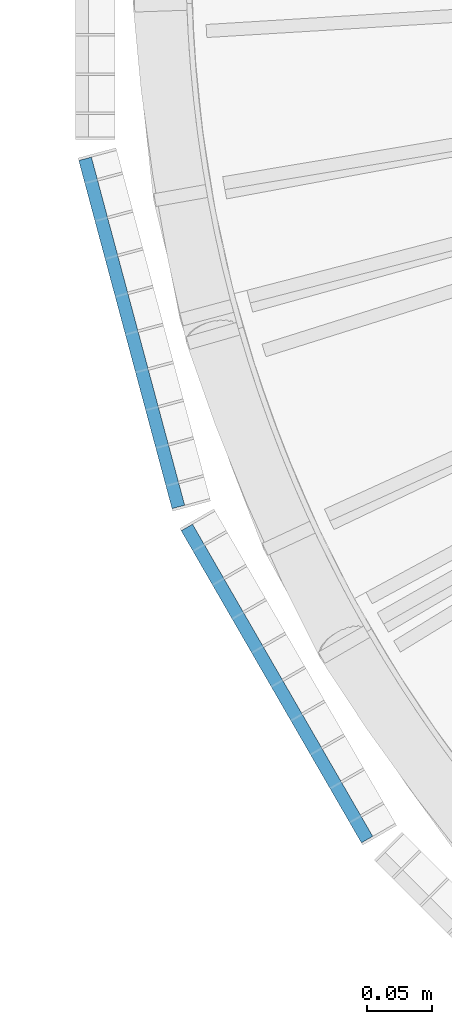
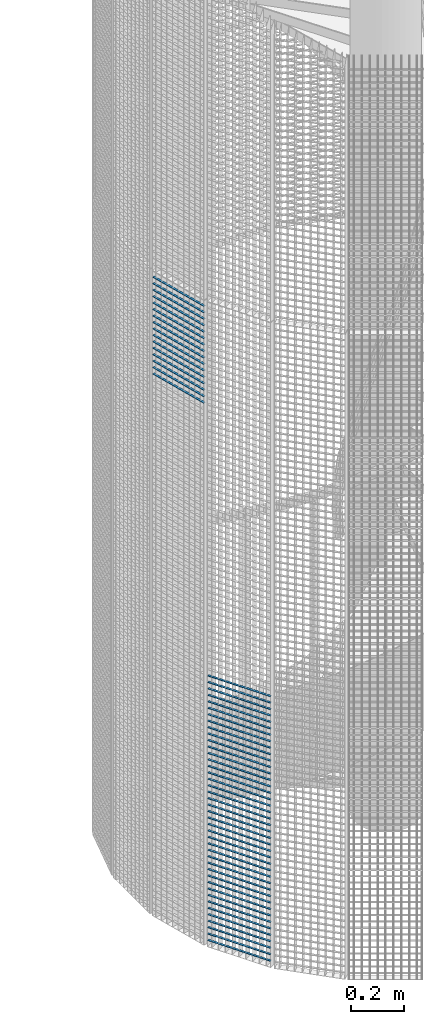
# One storey, part 132 of 1183: 58 beams, 2 elements without a shape of their own.
"""IFC2X3 building model written with IfcOpenShell, lengths in millimetres."""

from ifc_helpers import new_model, si_unit, frame, origin_with_axes, origin_2d_with_axis, place, context, subcontext, project, spatial, rectangle, extrude, material, type_object, element, aggregate, save


model = new_model("IFC2X3")

# Units and contexts
model_context = context("Model", 3, precision=1e-05, world=origin_with_axes())
body_context = subcontext(model_context, "Body", "Model", "MODEL_VIEW")
ifc_project = project(units=[si_unit("LENGTHUNIT", "METRE", prefix="MILLI"), si_unit("AREAUNIT", "SQUARE_METRE"), si_unit("VOLUMEUNIT", "CUBIC_METRE"), si_unit("MASSUNIT", "GRAM", prefix="KILO"), si_unit("TIMEUNIT", "SECOND"), si_unit("PLANEANGLEUNIT", "RADIAN"), si_unit("SOLIDANGLEUNIT", "STERADIAN"), si_unit("THERMODYNAMICTEMPERATUREUNIT", "DEGREE_CELSIUS"), si_unit("LUMINOUSINTENSITYUNIT", "LUMEN")], contexts=[model_context])

# Site, building, storey
site_placement = place(None, origin_with_axes())
site = spatial("IfcSite", under=ifc_project, at=site_placement, Name="Undefined", CompositionType="ELEMENT")
building_placement = place(site_placement, origin_with_axes())
building = spatial("IfcBuilding", under=site, at=building_placement, Name="Undefined", CompositionType="ELEMENT")
storey_placement = place(building_placement, origin_with_axes())
storey = spatial("IfcBuildingStorey", under=building, at=storey_placement, Name="Undefined", CompositionType="ELEMENT", Elevation=0.0)

# Assembly, beams
assembly_1_placement = place(storey_placement, origin_with_axes())
assembly_1 = element("IfcElementAssembly", 1, at=assembly_1_placement, inside=storey, Name="BORDURE", AssemblyPlace="NOTDEFINED", PredefinedType="NOTDEFINED")
ifc_material = material(Name="STEEL/S235JR")
beam_type = type_object("IfcBeamType", Name="PL2*10", PredefinedType="NOTDEFINED")
beam_1_placement = place(assembly_1_placement, frame((-1033.29996828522, -437.231955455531, 1260.0), z_axis=(-0.866025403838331, -0.499999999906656, 0.0), x_axis=(0.499999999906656, -0.866025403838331, 0.0)))
beam_1 = element("IfcBeam", 2, at=beam_1_placement, type_object=beam_type, material=ifc_material, Name="ENTRETOISE", context=body_context, shape_type="SweptSolid", body=[
    extrude(rectangle(XDim=2.0, YDim=10.0, at=origin_2d_with_axis()), frame((275.999999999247, 9.09494701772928e-13, 1.53210777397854e-14), z_axis=(-1.0, 0.0, 0.0), x_axis=(0.0, -1.0, 0.0)), (0.0, 0.0, 1.0), 276.0),
])
beam_2_placement = place(assembly_1_placement, frame((-1033.29996828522, -437.231955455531, 1230.0), z_axis=(-0.866025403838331, -0.499999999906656, 0.0), x_axis=(0.499999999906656, -0.866025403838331, 0.0)))
beam_2 = element("IfcBeam", 3, at=beam_2_placement, type_object=beam_type, material=ifc_material, Name="ENTRETOISE", context=body_context, shape_type="SweptSolid", body=[
    extrude(rectangle(XDim=2.0, YDim=10.0, at=origin_2d_with_axis()), frame((275.999999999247, 9.09494701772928e-13, 1.53210777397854e-14), z_axis=(-1.0, 0.0, 0.0), x_axis=(0.0, -1.0, 0.0)), (0.0, 0.0, 1.0), 276.0),
])
beam_3_placement = place(assembly_1_placement, frame((-1033.29996828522, -437.231955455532, 1200.0), z_axis=(-0.866025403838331, -0.499999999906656, 0.0), x_axis=(0.499999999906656, -0.866025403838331, 0.0)))
beam_3 = element("IfcBeam", 4, at=beam_3_placement, type_object=beam_type, material=ifc_material, Name="ENTRETOISE", context=body_context, shape_type="SweptSolid", body=[
    extrude(rectangle(XDim=2.0, YDim=10.0, at=origin_2d_with_axis()), frame((275.999999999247, 9.09494701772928e-13, 1.53210777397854e-14), z_axis=(-1.0, 0.0, 0.0), x_axis=(0.0, -1.0, 0.0)), (0.0, 0.0, 1.0), 276.0),
])
beam_4_placement = place(assembly_1_placement, frame((-1033.29996828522, -437.231955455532, 1170.0), z_axis=(-0.866025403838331, -0.499999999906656, 0.0), x_axis=(0.499999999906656, -0.866025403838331, 0.0)))
beam_4 = element("IfcBeam", 5, at=beam_4_placement, type_object=beam_type, material=ifc_material, Name="ENTRETOISE", context=body_context, shape_type="SweptSolid", body=[
    extrude(rectangle(XDim=2.0, YDim=10.0, at=origin_2d_with_axis()), frame((275.999999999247, 9.09494701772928e-13, 1.53210777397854e-14), z_axis=(-1.0, 0.0, 0.0), x_axis=(0.0, -1.0, 0.0)), (0.0, 0.0, 1.0), 276.0),
])
beam_5_placement = place(assembly_1_placement, frame((-1033.29996828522, -437.231955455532, 1140.0), z_axis=(-0.866025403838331, -0.499999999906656, 0.0), x_axis=(0.499999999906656, -0.866025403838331, 0.0)))
beam_5 = element("IfcBeam", 6, at=beam_5_placement, type_object=beam_type, material=ifc_material, Name="ENTRETOISE", context=body_context, shape_type="SweptSolid", body=[
    extrude(rectangle(XDim=2.0, YDim=10.0, at=origin_2d_with_axis()), frame((275.999999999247, 9.09494701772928e-13, 1.53210777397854e-14), z_axis=(-1.0, 0.0, 0.0), x_axis=(0.0, -1.0, 0.0)), (0.0, 0.0, 1.0), 276.0),
])
beam_6_placement = place(assembly_1_placement, frame((-1033.29996828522, -437.231955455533, 719.999999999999), z_axis=(-0.866025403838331, -0.499999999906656, 0.0), x_axis=(0.499999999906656, -0.866025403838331, 0.0)))
beam_6 = element("IfcBeam", 7, at=beam_6_placement, type_object=beam_type, material=ifc_material, Name="ENTRETOISE", context=body_context, shape_type="SweptSolid", body=[
    extrude(rectangle(XDim=2.0, YDim=10.0, at=origin_2d_with_axis()), frame((275.999999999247, 9.09494701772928e-13, 1.53210777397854e-14), z_axis=(-1.0, 0.0, 0.0), x_axis=(0.0, -1.0, 0.0)), (0.0, 0.0, 1.0), 276.0),
])
beam_7_placement = place(assembly_1_placement, frame((-1033.29996828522, -437.231955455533, 689.999999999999), z_axis=(-0.866025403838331, -0.499999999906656, 0.0), x_axis=(0.499999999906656, -0.866025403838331, 0.0)))
beam_7 = element("IfcBeam", 8, at=beam_7_placement, type_object=beam_type, material=ifc_material, Name="ENTRETOISE", context=body_context, shape_type="SweptSolid", body=[
    extrude(rectangle(XDim=2.0, YDim=10.0, at=origin_2d_with_axis()), frame((275.999999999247, 9.09494701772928e-13, 1.53210777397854e-14), z_axis=(-1.0, 0.0, 0.0), x_axis=(0.0, -1.0, 0.0)), (0.0, 0.0, 1.0), 276.0),
])
beam_8_placement = place(assembly_1_placement, frame((-1033.29996828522, -437.231955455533, 749.999999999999), z_axis=(-0.866025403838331, -0.499999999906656, 0.0), x_axis=(0.499999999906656, -0.866025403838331, 0.0)))
beam_8 = element("IfcBeam", 9, at=beam_8_placement, type_object=beam_type, material=ifc_material, Name="ENTRETOISE", context=body_context, shape_type="SweptSolid", body=[
    extrude(rectangle(XDim=2.0, YDim=10.0, at=origin_2d_with_axis()), frame((275.999999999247, 9.09494701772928e-13, 1.53210777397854e-14), z_axis=(-1.0, 0.0, 0.0), x_axis=(0.0, -1.0, 0.0)), (0.0, 0.0, 1.0), 276.0),
])
beam_9_placement = place(assembly_1_placement, frame((-1033.29996828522, -437.231955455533, 659.999999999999), z_axis=(-0.866025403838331, -0.499999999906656, 0.0), x_axis=(0.499999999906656, -0.866025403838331, 0.0)))
beam_9 = element("IfcBeam", 10, at=beam_9_placement, type_object=beam_type, material=ifc_material, Name="ENTRETOISE", context=body_context, shape_type="SweptSolid", body=[
    extrude(rectangle(XDim=2.0, YDim=10.0, at=origin_2d_with_axis()), frame((275.999999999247, 9.09494701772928e-13, 1.53210777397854e-14), z_axis=(-1.0, 0.0, 0.0), x_axis=(0.0, -1.0, 0.0)), (0.0, 0.0, 1.0), 276.0),
])
beam_10_placement = place(assembly_1_placement, frame((-1033.29996828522, -437.231955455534, 629.999999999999), z_axis=(-0.866025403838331, -0.499999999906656, 0.0), x_axis=(0.499999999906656, -0.866025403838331, 0.0)))
beam_10 = element("IfcBeam", 11, at=beam_10_placement, type_object=beam_type, material=ifc_material, Name="ENTRETOISE", context=body_context, shape_type="SweptSolid", body=[
    extrude(rectangle(XDim=2.0, YDim=10.0, at=origin_2d_with_axis()), frame((275.999999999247, 9.09494701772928e-13, 1.53210777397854e-14), z_axis=(-1.0, 0.0, 0.0), x_axis=(0.0, -1.0, 0.0)), (0.0, 0.0, 1.0), 276.0),
])
beam_11_placement = place(assembly_1_placement, frame((-1033.29996828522, -437.231955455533, 779.999999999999), z_axis=(-0.866025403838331, -0.499999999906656, 0.0), x_axis=(0.499999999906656, -0.866025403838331, 0.0)))
beam_11 = element("IfcBeam", 12, at=beam_11_placement, type_object=beam_type, material=ifc_material, Name="ENTRETOISE", context=body_context, shape_type="SweptSolid", body=[
    extrude(rectangle(XDim=2.0, YDim=10.0, at=origin_2d_with_axis()), frame((275.999999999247, 9.09494701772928e-13, 1.53210777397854e-14), z_axis=(-1.0, 0.0, 0.0), x_axis=(0.0, -1.0, 0.0)), (0.0, 0.0, 1.0), 276.0),
])
beam_12_placement = place(assembly_1_placement, frame((-1033.29996828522, -437.231955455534, 599.999999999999), z_axis=(-0.866025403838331, -0.499999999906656, 0.0), x_axis=(0.499999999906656, -0.866025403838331, 0.0)))
beam_12 = element("IfcBeam", 13, at=beam_12_placement, type_object=beam_type, material=ifc_material, Name="ENTRETOISE", context=body_context, shape_type="SweptSolid", body=[
    extrude(rectangle(XDim=2.0, YDim=10.0, at=origin_2d_with_axis()), frame((275.999999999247, 9.09494701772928e-13, 1.53210777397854e-14), z_axis=(-1.0, 0.0, 0.0), x_axis=(0.0, -1.0, 0.0)), (0.0, 0.0, 1.0), 276.0),
])
beam_13_placement = place(assembly_1_placement, frame((-1033.29996828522, -437.231955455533, 809.999999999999), z_axis=(-0.866025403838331, -0.499999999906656, 0.0), x_axis=(0.499999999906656, -0.866025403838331, 0.0)))
beam_13 = element("IfcBeam", 14, at=beam_13_placement, type_object=beam_type, material=ifc_material, Name="ENTRETOISE", context=body_context, shape_type="SweptSolid", body=[
    extrude(rectangle(XDim=2.0, YDim=10.0, at=origin_2d_with_axis()), frame((275.999999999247, 9.09494701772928e-13, 1.53210777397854e-14), z_axis=(-1.0, 0.0, 0.0), x_axis=(0.0, -1.0, 0.0)), (0.0, 0.0, 1.0), 276.0),
])
beam_14_placement = place(assembly_1_placement, frame((-1033.29996828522, -437.231955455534, 569.999999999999), z_axis=(-0.866025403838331, -0.499999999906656, 0.0), x_axis=(0.499999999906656, -0.866025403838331, 0.0)))
beam_14 = element("IfcBeam", 15, at=beam_14_placement, type_object=beam_type, material=ifc_material, Name="ENTRETOISE", context=body_context, shape_type="SweptSolid", body=[
    extrude(rectangle(XDim=2.0, YDim=10.0, at=origin_2d_with_axis()), frame((275.999999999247, 9.09494701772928e-13, 1.53210777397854e-14), z_axis=(-1.0, 0.0, 0.0), x_axis=(0.0, -1.0, 0.0)), (0.0, 0.0, 1.0), 276.0),
])
beam_15_placement = place(assembly_1_placement, frame((-1033.29996828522, -437.231955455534, 539.999999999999), z_axis=(-0.866025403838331, -0.499999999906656, 0.0), x_axis=(0.499999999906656, -0.866025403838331, 0.0)))
beam_15 = element("IfcBeam", 16, at=beam_15_placement, type_object=beam_type, material=ifc_material, Name="ENTRETOISE", context=body_context, shape_type="SweptSolid", body=[
    extrude(rectangle(XDim=2.0, YDim=10.0, at=origin_2d_with_axis()), frame((275.999999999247, 9.09494701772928e-13, 1.53210777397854e-14), z_axis=(-1.0, 0.0, 0.0), x_axis=(0.0, -1.0, 0.0)), (0.0, 0.0, 1.0), 276.0),
])
beam_16_placement = place(assembly_1_placement, frame((-1033.29996828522, -437.231955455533, 839.999999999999), z_axis=(-0.866025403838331, -0.499999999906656, 0.0), x_axis=(0.499999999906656, -0.866025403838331, 0.0)))
beam_16 = element("IfcBeam", 17, at=beam_16_placement, type_object=beam_type, material=ifc_material, Name="ENTRETOISE", context=body_context, shape_type="SweptSolid", body=[
    extrude(rectangle(XDim=2.0, YDim=10.0, at=origin_2d_with_axis()), frame((275.999999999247, 9.09494701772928e-13, 1.53210777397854e-14), z_axis=(-1.0, 0.0, 0.0), x_axis=(0.0, -1.0, 0.0)), (0.0, 0.0, 1.0), 276.0),
])
beam_17_placement = place(assembly_1_placement, frame((-1033.29996828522, -437.231955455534, 509.999999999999), z_axis=(-0.866025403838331, -0.499999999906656, 0.0), x_axis=(0.499999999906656, -0.866025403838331, 0.0)))
beam_17 = element("IfcBeam", 18, at=beam_17_placement, type_object=beam_type, material=ifc_material, Name="ENTRETOISE", context=body_context, shape_type="SweptSolid", body=[
    extrude(rectangle(XDim=2.0, YDim=10.0, at=origin_2d_with_axis()), frame((275.999999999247, 9.09494701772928e-13, 1.53210777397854e-14), z_axis=(-1.0, 0.0, 0.0), x_axis=(0.0, -1.0, 0.0)), (0.0, 0.0, 1.0), 276.0),
])
beam_18_placement = place(assembly_1_placement, frame((-1033.29996828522, -437.231955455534, 479.999999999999), z_axis=(-0.866025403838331, -0.499999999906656, 0.0), x_axis=(0.499999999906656, -0.866025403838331, 0.0)))
beam_18 = element("IfcBeam", 19, at=beam_18_placement, type_object=beam_type, material=ifc_material, Name="ENTRETOISE", context=body_context, shape_type="SweptSolid", body=[
    extrude(rectangle(XDim=2.0, YDim=10.0, at=origin_2d_with_axis()), frame((275.999999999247, 9.09494701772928e-13, 1.53210777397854e-14), z_axis=(-1.0, 0.0, 0.0), x_axis=(0.0, -1.0, 0.0)), (0.0, 0.0, 1.0), 276.0),
])
beam_19_placement = place(assembly_1_placement, frame((-1033.29996828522, -437.231955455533, 869.999999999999), z_axis=(-0.866025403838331, -0.499999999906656, 0.0), x_axis=(0.499999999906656, -0.866025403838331, 0.0)))
beam_19 = element("IfcBeam", 20, at=beam_19_placement, type_object=beam_type, material=ifc_material, Name="ENTRETOISE", context=body_context, shape_type="SweptSolid", body=[
    extrude(rectangle(XDim=2.0, YDim=10.0, at=origin_2d_with_axis()), frame((275.999999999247, 9.09494701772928e-13, 1.53210777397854e-14), z_axis=(-1.0, 0.0, 0.0), x_axis=(0.0, -1.0, 0.0)), (0.0, 0.0, 1.0), 276.0),
])
beam_20_placement = place(assembly_1_placement, frame((-1033.29996828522, -437.231955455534, 449.999999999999), z_axis=(-0.866025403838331, -0.499999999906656, 0.0), x_axis=(0.499999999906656, -0.866025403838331, 0.0)))
beam_20 = element("IfcBeam", 21, at=beam_20_placement, type_object=beam_type, material=ifc_material, Name="ENTRETOISE", context=body_context, shape_type="SweptSolid", body=[
    extrude(rectangle(XDim=2.0, YDim=10.0, at=origin_2d_with_axis()), frame((275.999999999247, 9.09494701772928e-13, 1.53210777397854e-14), z_axis=(-1.0, 0.0, 0.0), x_axis=(0.0, -1.0, 0.0)), (0.0, 0.0, 1.0), 276.0),
])
beam_21_placement = place(assembly_1_placement, frame((-1033.29996828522, -437.231955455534, 419.999999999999), z_axis=(-0.866025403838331, -0.499999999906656, 0.0), x_axis=(0.499999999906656, -0.866025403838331, 0.0)))
beam_21 = element("IfcBeam", 22, at=beam_21_placement, type_object=beam_type, material=ifc_material, Name="ENTRETOISE", context=body_context, shape_type="SweptSolid", body=[
    extrude(rectangle(XDim=2.0, YDim=10.0, at=origin_2d_with_axis()), frame((275.999999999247, 9.09494701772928e-13, 1.53210777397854e-14), z_axis=(-1.0, 0.0, 0.0), x_axis=(0.0, -1.0, 0.0)), (0.0, 0.0, 1.0), 276.0),
])
beam_22_placement = place(assembly_1_placement, frame((-1033.29996828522, -437.231955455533, 899.999999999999), z_axis=(-0.866025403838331, -0.499999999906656, 0.0), x_axis=(0.499999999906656, -0.866025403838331, 0.0)))
beam_22 = element("IfcBeam", 23, at=beam_22_placement, type_object=beam_type, material=ifc_material, Name="ENTRETOISE", context=body_context, shape_type="SweptSolid", body=[
    extrude(rectangle(XDim=2.0, YDim=10.0, at=origin_2d_with_axis()), frame((275.999999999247, 9.09494701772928e-13, 1.53210777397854e-14), z_axis=(-1.0, 0.0, 0.0), x_axis=(0.0, -1.0, 0.0)), (0.0, 0.0, 1.0), 276.0),
])
beam_23_placement = place(assembly_1_placement, frame((-1033.29996828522, -437.231955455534, 389.999999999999), z_axis=(-0.866025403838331, -0.499999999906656, 0.0), x_axis=(0.499999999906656, -0.866025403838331, 0.0)))
beam_23 = element("IfcBeam", 24, at=beam_23_placement, type_object=beam_type, material=ifc_material, Name="ENTRETOISE", context=body_context, shape_type="SweptSolid", body=[
    extrude(rectangle(XDim=2.0, YDim=10.0, at=origin_2d_with_axis()), frame((275.999999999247, 9.09494701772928e-13, 1.53210777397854e-14), z_axis=(-1.0, 0.0, 0.0), x_axis=(0.0, -1.0, 0.0)), (0.0, 0.0, 1.0), 276.0),
])
beam_24_placement = place(assembly_1_placement, frame((-1033.29996828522, -437.231955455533, 929.999999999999), z_axis=(-0.866025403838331, -0.499999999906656, 0.0), x_axis=(0.499999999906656, -0.866025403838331, 0.0)))
beam_24 = element("IfcBeam", 25, at=beam_24_placement, type_object=beam_type, material=ifc_material, Name="ENTRETOISE", context=body_context, shape_type="SweptSolid", body=[
    extrude(rectangle(XDim=2.0, YDim=10.0, at=origin_2d_with_axis()), frame((275.999999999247, 9.09494701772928e-13, 1.53210777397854e-14), z_axis=(-1.0, 0.0, 0.0), x_axis=(0.0, -1.0, 0.0)), (0.0, 0.0, 1.0), 276.0),
])
beam_25_placement = place(assembly_1_placement, frame((-1033.29996828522, -437.231955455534, 359.999999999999), z_axis=(-0.866025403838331, -0.499999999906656, 0.0), x_axis=(0.499999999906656, -0.866025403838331, 0.0)))
beam_25 = element("IfcBeam", 26, at=beam_25_placement, type_object=beam_type, material=ifc_material, Name="ENTRETOISE", context=body_context, shape_type="SweptSolid", body=[
    extrude(rectangle(XDim=2.0, YDim=10.0, at=origin_2d_with_axis()), frame((275.999999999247, 9.09494701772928e-13, 1.53210777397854e-14), z_axis=(-1.0, 0.0, 0.0), x_axis=(0.0, -1.0, 0.0)), (0.0, 0.0, 1.0), 276.0),
])
beam_26_placement = place(assembly_1_placement, frame((-1033.29996828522, -437.231955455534, 329.999999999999), z_axis=(-0.866025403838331, -0.499999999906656, 0.0), x_axis=(0.499999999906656, -0.866025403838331, 0.0)))
beam_26 = element("IfcBeam", 27, at=beam_26_placement, type_object=beam_type, material=ifc_material, Name="ENTRETOISE", context=body_context, shape_type="SweptSolid", body=[
    extrude(rectangle(XDim=2.0, YDim=10.0, at=origin_2d_with_axis()), frame((275.999999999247, 9.09494701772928e-13, 1.53210777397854e-14), z_axis=(-1.0, 0.0, 0.0), x_axis=(0.0, -1.0, 0.0)), (0.0, 0.0, 1.0), 276.0),
])
beam_27_placement = place(assembly_1_placement, frame((-1033.29996828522, -437.231955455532, 959.999999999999), z_axis=(-0.866025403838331, -0.499999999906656, 0.0), x_axis=(0.499999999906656, -0.866025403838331, 0.0)))
beam_27 = element("IfcBeam", 28, at=beam_27_placement, type_object=beam_type, material=ifc_material, Name="ENTRETOISE", context=body_context, shape_type="SweptSolid", body=[
    extrude(rectangle(XDim=2.0, YDim=10.0, at=origin_2d_with_axis()), frame((275.999999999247, 9.09494701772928e-13, 1.53210777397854e-14), z_axis=(-1.0, 0.0, 0.0), x_axis=(0.0, -1.0, 0.0)), (0.0, 0.0, 1.0), 276.0),
])
beam_28_placement = place(assembly_1_placement, frame((-1033.29996828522, -437.231955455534, 299.999999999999), z_axis=(-0.866025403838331, -0.499999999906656, 0.0), x_axis=(0.499999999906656, -0.866025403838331, 0.0)))
beam_28 = element("IfcBeam", 29, at=beam_28_placement, type_object=beam_type, material=ifc_material, Name="ENTRETOISE", context=body_context, shape_type="SweptSolid", body=[
    extrude(rectangle(XDim=2.0, YDim=10.0, at=origin_2d_with_axis()), frame((275.999999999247, 9.09494701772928e-13, 1.53210777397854e-14), z_axis=(-1.0, 0.0, 0.0), x_axis=(0.0, -1.0, 0.0)), (0.0, 0.0, 1.0), 276.0),
])
beam_29_placement = place(assembly_1_placement, frame((-1033.29996828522, -437.231955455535, 269.999999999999), z_axis=(-0.866025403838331, -0.499999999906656, 0.0), x_axis=(0.499999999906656, -0.866025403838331, 0.0)))
beam_29 = element("IfcBeam", 30, at=beam_29_placement, type_object=beam_type, material=ifc_material, Name="ENTRETOISE", context=body_context, shape_type="SweptSolid", body=[
    extrude(rectangle(XDim=2.0, YDim=10.0, at=origin_2d_with_axis()), frame((275.999999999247, 9.09494701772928e-13, 1.53210777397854e-14), z_axis=(-1.0, 0.0, 0.0), x_axis=(0.0, -1.0, 0.0)), (0.0, 0.0, 1.0), 276.0),
])
beam_30_placement = place(assembly_1_placement, frame((-1033.29996828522, -437.231955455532, 989.999999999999), z_axis=(-0.866025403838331, -0.499999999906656, 0.0), x_axis=(0.499999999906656, -0.866025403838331, 0.0)))
beam_30 = element("IfcBeam", 31, at=beam_30_placement, type_object=beam_type, material=ifc_material, Name="ENTRETOISE", context=body_context, shape_type="SweptSolid", body=[
    extrude(rectangle(XDim=2.0, YDim=10.0, at=origin_2d_with_axis()), frame((275.999999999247, 9.09494701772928e-13, 1.53210777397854e-14), z_axis=(-1.0, 0.0, 0.0), x_axis=(0.0, -1.0, 0.0)), (0.0, 0.0, 1.0), 276.0),
])
beam_31_placement = place(assembly_1_placement, frame((-1033.29996828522, -437.231955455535, 239.999999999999), z_axis=(-0.866025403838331, -0.499999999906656, 0.0), x_axis=(0.499999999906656, -0.866025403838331, 0.0)))
beam_31 = element("IfcBeam", 32, at=beam_31_placement, type_object=beam_type, material=ifc_material, Name="ENTRETOISE", context=body_context, shape_type="SweptSolid", body=[
    extrude(rectangle(XDim=2.0, YDim=10.0, at=origin_2d_with_axis()), frame((275.999999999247, 9.09494701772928e-13, 1.53210777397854e-14), z_axis=(-1.0, 0.0, 0.0), x_axis=(0.0, -1.0, 0.0)), (0.0, 0.0, 1.0), 276.0),
])
beam_32_placement = place(assembly_1_placement, frame((-1033.29996828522, -437.231955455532, 1020.0), z_axis=(-0.866025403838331, -0.499999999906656, 0.0), x_axis=(0.499999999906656, -0.866025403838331, 0.0)))
beam_32 = element("IfcBeam", 33, at=beam_32_placement, type_object=beam_type, material=ifc_material, Name="ENTRETOISE", context=body_context, shape_type="SweptSolid", body=[
    extrude(rectangle(XDim=2.0, YDim=10.0, at=origin_2d_with_axis()), frame((275.999999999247, 9.09494701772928e-13, 1.53210777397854e-14), z_axis=(-1.0, 0.0, 0.0), x_axis=(0.0, -1.0, 0.0)), (0.0, 0.0, 1.0), 276.0),
])
beam_33_placement = place(assembly_1_placement, frame((-1033.29996828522, -437.231955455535, 209.999999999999), z_axis=(-0.866025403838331, -0.499999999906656, 0.0), x_axis=(0.499999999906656, -0.866025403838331, 0.0)))
beam_33 = element("IfcBeam", 34, at=beam_33_placement, type_object=beam_type, material=ifc_material, Name="ENTRETOISE", context=body_context, shape_type="SweptSolid", body=[
    extrude(rectangle(XDim=2.0, YDim=10.0, at=origin_2d_with_axis()), frame((275.999999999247, 9.09494701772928e-13, 1.53210777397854e-14), z_axis=(-1.0, 0.0, 0.0), x_axis=(0.0, -1.0, 0.0)), (0.0, 0.0, 1.0), 276.0),
])
beam_34_placement = place(assembly_1_placement, frame((-1033.29996828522, -437.231955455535, 179.999999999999), z_axis=(-0.866025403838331, -0.499999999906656, 0.0), x_axis=(0.499999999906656, -0.866025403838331, 0.0)))
beam_34 = element("IfcBeam", 35, at=beam_34_placement, type_object=beam_type, material=ifc_material, Name="ENTRETOISE", context=body_context, shape_type="SweptSolid", body=[
    extrude(rectangle(XDim=2.0, YDim=10.0, at=origin_2d_with_axis()), frame((275.999999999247, 9.09494701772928e-13, 1.53210777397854e-14), z_axis=(-1.0, 0.0, 0.0), x_axis=(0.0, -1.0, 0.0)), (0.0, 0.0, 1.0), 276.0),
])
beam_35_placement = place(assembly_1_placement, frame((-1033.29996828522, -437.231955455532, 1050.0), z_axis=(-0.866025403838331, -0.499999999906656, 0.0), x_axis=(0.499999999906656, -0.866025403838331, 0.0)))
beam_35 = element("IfcBeam", 36, at=beam_35_placement, type_object=beam_type, material=ifc_material, Name="ENTRETOISE", context=body_context, shape_type="SweptSolid", body=[
    extrude(rectangle(XDim=2.0, YDim=10.0, at=origin_2d_with_axis()), frame((275.999999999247, 9.09494701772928e-13, 1.53210777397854e-14), z_axis=(-1.0, 0.0, 0.0), x_axis=(0.0, -1.0, 0.0)), (0.0, 0.0, 1.0), 276.0),
])
beam_36_placement = place(assembly_1_placement, frame((-1033.29996828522, -437.231955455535, 149.999999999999), z_axis=(-0.866025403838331, -0.499999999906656, 0.0), x_axis=(0.499999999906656, -0.866025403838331, 0.0)))
beam_36 = element("IfcBeam", 37, at=beam_36_placement, type_object=beam_type, material=ifc_material, Name="ENTRETOISE", context=body_context, shape_type="SweptSolid", body=[
    extrude(rectangle(XDim=2.0, YDim=10.0, at=origin_2d_with_axis()), frame((275.999999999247, 9.09494701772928e-13, 1.53210777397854e-14), z_axis=(-1.0, 0.0, 0.0), x_axis=(0.0, -1.0, 0.0)), (0.0, 0.0, 1.0), 276.0),
])
beam_37_placement = place(assembly_1_placement, frame((-1033.29996828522, -437.231955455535, 119.999999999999), z_axis=(-0.866025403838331, -0.499999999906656, 0.0), x_axis=(0.499999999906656, -0.866025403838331, 0.0)))
beam_37 = element("IfcBeam", 38, at=beam_37_placement, type_object=beam_type, material=ifc_material, Name="ENTRETOISE", context=body_context, shape_type="SweptSolid", body=[
    extrude(rectangle(XDim=2.0, YDim=10.0, at=origin_2d_with_axis()), frame((275.999999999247, 9.09494701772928e-13, 1.53210777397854e-14), z_axis=(-1.0, 0.0, 0.0), x_axis=(0.0, -1.0, 0.0)), (0.0, 0.0, 1.0), 276.0),
])
beam_38_placement = place(assembly_1_placement, frame((-1033.29996828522, -437.231955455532, 1080.0), z_axis=(-0.866025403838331, -0.499999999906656, 0.0), x_axis=(0.499999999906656, -0.866025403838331, 0.0)))
beam_38 = element("IfcBeam", 39, at=beam_38_placement, type_object=beam_type, material=ifc_material, Name="ENTRETOISE", context=body_context, shape_type="SweptSolid", body=[
    extrude(rectangle(XDim=2.0, YDim=10.0, at=origin_2d_with_axis()), frame((275.999999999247, 9.09494701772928e-13, 1.53210777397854e-14), z_axis=(-1.0, 0.0, 0.0), x_axis=(0.0, -1.0, 0.0)), (0.0, 0.0, 1.0), 276.0),
])
beam_39_placement = place(assembly_1_placement, frame((-1033.29996828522, -437.231955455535, 89.9999999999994), z_axis=(-0.866025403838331, -0.499999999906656, 0.0), x_axis=(0.499999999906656, -0.866025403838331, 0.0)))
beam_39 = element("IfcBeam", 40, at=beam_39_placement, type_object=beam_type, material=ifc_material, Name="ENTRETOISE", context=body_context, shape_type="SweptSolid", body=[
    extrude(rectangle(XDim=2.0, YDim=10.0, at=origin_2d_with_axis()), frame((275.999999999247, 9.09494701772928e-13, 1.53210777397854e-14), z_axis=(-1.0, 0.0, 0.0), x_axis=(0.0, -1.0, 0.0)), (0.0, 0.0, 1.0), 276.0),
])
beam_40_placement = place(assembly_1_placement, frame((-1033.29996828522, -437.231955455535, 59.9999999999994), z_axis=(-0.866025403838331, -0.499999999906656, 0.0), x_axis=(0.499999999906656, -0.866025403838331, 0.0)))
beam_40 = element("IfcBeam", 41, at=beam_40_placement, type_object=beam_type, material=ifc_material, Name="ENTRETOISE", context=body_context, shape_type="SweptSolid", body=[
    extrude(rectangle(XDim=2.0, YDim=10.0, at=origin_2d_with_axis()), frame((275.999999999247, 9.09494701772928e-13, 1.53210777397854e-14), z_axis=(-1.0, 0.0, 0.0), x_axis=(0.0, -1.0, 0.0)), (0.0, 0.0, 1.0), 276.0),
])
beam_41_placement = place(assembly_1_placement, frame((-1033.29996828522, -437.231955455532, 1110.0), z_axis=(-0.866025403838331, -0.499999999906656, 0.0), x_axis=(0.499999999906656, -0.866025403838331, 0.0)))
beam_41 = element("IfcBeam", 42, at=beam_41_placement, type_object=beam_type, material=ifc_material, Name="ENTRETOISE", context=body_context, shape_type="SweptSolid", body=[
    extrude(rectangle(XDim=2.0, YDim=10.0, at=origin_2d_with_axis()), frame((275.999999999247, 9.09494701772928e-13, 1.53210777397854e-14), z_axis=(-1.0, 0.0, 0.0), x_axis=(0.0, -1.0, 0.0)), (0.0, 0.0, 1.0), 276.0),
])
beam_42_placement = place(assembly_1_placement, frame((-1033.29996828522, -437.231955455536, 29.9999999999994), z_axis=(-0.866025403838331, -0.499999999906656, 0.0), x_axis=(0.499999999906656, -0.866025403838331, 0.0)))
beam_42 = element("IfcBeam", 43, at=beam_42_placement, type_object=beam_type, material=ifc_material, Name="ENTRETOISE", context=body_context, shape_type="SweptSolid", body=[
    extrude(rectangle(XDim=2.0, YDim=10.0, at=origin_2d_with_axis()), frame((275.999999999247, 9.09494701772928e-13, 1.53210777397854e-14), z_axis=(-1.0, 0.0, 0.0), x_axis=(0.0, -1.0, 0.0)), (0.0, 0.0, 1.0), 276.0),
])
aggregate(assembly_1, [beam_1, beam_2, beam_3, beam_4, beam_5, beam_6, beam_7, beam_8, beam_9, beam_10, beam_11, beam_12, beam_13, beam_14, beam_15, beam_16, beam_17, beam_18, beam_19, beam_20, beam_21, beam_22, beam_23, beam_24, beam_25, beam_26, beam_27, beam_28, beam_29, beam_30, beam_31, beam_32, beam_33, beam_34, beam_35, beam_36, beam_37, beam_38, beam_39, beam_40, beam_41, beam_42])

assembly_2_placement = place(storey_placement, origin_with_axes())
assembly_2 = element("IfcElementAssembly", 44, at=assembly_2_placement, inside=storey, Name="BORDURE", AssemblyPlace="NOTDEFINED", PredefinedType="NOTDEFINED")
beam_43_placement = place(assembly_2_placement, frame((-1111.25508286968, -154.895926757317, 2970.0), z_axis=(-0.965925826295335, -0.258819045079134, 0.0), x_axis=(0.258819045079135, -0.965925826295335, 0.0)))
beam_43 = element("IfcBeam", 45, at=beam_43_placement, type_object=beam_type, material=ifc_material, Name="ENTRETOISE", context=body_context, shape_type="SweptSolid", body=[
    extrude(rectangle(XDim=2.0, YDim=10.0, at=origin_2d_with_axis()), frame((275.999999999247, 9.09494701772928e-13, 1.53210777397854e-14), z_axis=(-1.0, 0.0, 0.0), x_axis=(0.0, -1.0, 0.0)), (0.0, 0.0, 1.0), 276.0),
])
beam_44_placement = place(assembly_2_placement, frame((-1111.25508286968, -154.895926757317, 2940.0), z_axis=(-0.965925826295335, -0.258819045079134, 0.0), x_axis=(0.258819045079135, -0.965925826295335, 0.0)))
beam_44 = element("IfcBeam", 46, at=beam_44_placement, type_object=beam_type, material=ifc_material, Name="ENTRETOISE", context=body_context, shape_type="SweptSolid", body=[
    extrude(rectangle(XDim=2.0, YDim=10.0, at=origin_2d_with_axis()), frame((275.999999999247, 9.09494701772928e-13, 1.53210777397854e-14), z_axis=(-1.0, 0.0, 0.0), x_axis=(0.0, -1.0, 0.0)), (0.0, 0.0, 1.0), 276.0),
])
beam_45_placement = place(assembly_2_placement, frame((-1111.25508286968, -154.895926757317, 2910.0), z_axis=(-0.965925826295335, -0.258819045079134, 0.0), x_axis=(0.258819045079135, -0.965925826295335, 0.0)))
beam_45 = element("IfcBeam", 47, at=beam_45_placement, type_object=beam_type, material=ifc_material, Name="ENTRETOISE", context=body_context, shape_type="SweptSolid", body=[
    extrude(rectangle(XDim=2.0, YDim=10.0, at=origin_2d_with_axis()), frame((275.999999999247, 9.09494701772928e-13, 1.53210777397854e-14), z_axis=(-1.0, 0.0, 0.0), x_axis=(0.0, -1.0, 0.0)), (0.0, 0.0, 1.0), 276.0),
])
beam_46_placement = place(assembly_2_placement, frame((-1111.25508286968, -154.895926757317, 2880.0), z_axis=(-0.965925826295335, -0.258819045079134, 0.0), x_axis=(0.258819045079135, -0.965925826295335, 0.0)))
beam_46 = element("IfcBeam", 48, at=beam_46_placement, type_object=beam_type, material=ifc_material, Name="ENTRETOISE", context=body_context, shape_type="SweptSolid", body=[
    extrude(rectangle(XDim=2.0, YDim=10.0, at=origin_2d_with_axis()), frame((275.999999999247, 9.09494701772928e-13, 1.53210777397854e-14), z_axis=(-1.0, 0.0, 0.0), x_axis=(0.0, -1.0, 0.0)), (0.0, 0.0, 1.0), 276.0),
])
beam_47_placement = place(assembly_2_placement, frame((-1111.25508286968, -154.895926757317, 2850.0), z_axis=(-0.965925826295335, -0.258819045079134, 0.0), x_axis=(0.258819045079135, -0.965925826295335, 0.0)))
beam_47 = element("IfcBeam", 49, at=beam_47_placement, type_object=beam_type, material=ifc_material, Name="ENTRETOISE", context=body_context, shape_type="SweptSolid", body=[
    extrude(rectangle(XDim=2.0, YDim=10.0, at=origin_2d_with_axis()), frame((275.999999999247, 9.09494701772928e-13, 1.53210777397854e-14), z_axis=(-1.0, 0.0, 0.0), x_axis=(0.0, -1.0, 0.0)), (0.0, 0.0, 1.0), 276.0),
])
beam_48_placement = place(assembly_2_placement, frame((-1111.25508286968, -154.895926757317, 2820.0), z_axis=(-0.965925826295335, -0.258819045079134, 0.0), x_axis=(0.258819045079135, -0.965925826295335, 0.0)))
beam_48 = element("IfcBeam", 50, at=beam_48_placement, type_object=beam_type, material=ifc_material, Name="ENTRETOISE", context=body_context, shape_type="SweptSolid", body=[
    extrude(rectangle(XDim=2.0, YDim=10.0, at=origin_2d_with_axis()), frame((275.999999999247, 9.09494701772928e-13, 1.53210777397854e-14), z_axis=(-1.0, 0.0, 0.0), x_axis=(0.0, -1.0, 0.0)), (0.0, 0.0, 1.0), 276.0),
])
beam_49_placement = place(assembly_2_placement, frame((-1111.25508286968, -154.895926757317, 2790.0), z_axis=(-0.965925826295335, -0.258819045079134, 0.0), x_axis=(0.258819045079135, -0.965925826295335, 0.0)))
beam_49 = element("IfcBeam", 51, at=beam_49_placement, type_object=beam_type, material=ifc_material, Name="ENTRETOISE", context=body_context, shape_type="SweptSolid", body=[
    extrude(rectangle(XDim=2.0, YDim=10.0, at=origin_2d_with_axis()), frame((275.999999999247, 9.09494701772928e-13, 1.53210777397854e-14), z_axis=(-1.0, 0.0, 0.0), x_axis=(0.0, -1.0, 0.0)), (0.0, 0.0, 1.0), 276.0),
])
beam_50_placement = place(assembly_2_placement, frame((-1111.25508286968, -154.895926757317, 2760.0), z_axis=(-0.965925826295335, -0.258819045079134, 0.0), x_axis=(0.258819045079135, -0.965925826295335, 0.0)))
beam_50 = element("IfcBeam", 52, at=beam_50_placement, type_object=beam_type, material=ifc_material, Name="ENTRETOISE", context=body_context, shape_type="SweptSolid", body=[
    extrude(rectangle(XDim=2.0, YDim=10.0, at=origin_2d_with_axis()), frame((275.999999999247, 9.09494701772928e-13, 1.53210777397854e-14), z_axis=(-1.0, 0.0, 0.0), x_axis=(0.0, -1.0, 0.0)), (0.0, 0.0, 1.0), 276.0),
])
beam_51_placement = place(assembly_2_placement, frame((-1111.25508286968, -154.895926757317, 2730.0), z_axis=(-0.965925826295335, -0.258819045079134, 0.0), x_axis=(0.258819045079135, -0.965925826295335, 0.0)))
beam_51 = element("IfcBeam", 53, at=beam_51_placement, type_object=beam_type, material=ifc_material, Name="ENTRETOISE", context=body_context, shape_type="SweptSolid", body=[
    extrude(rectangle(XDim=2.0, YDim=10.0, at=origin_2d_with_axis()), frame((275.999999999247, 9.09494701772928e-13, 1.53210777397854e-14), z_axis=(-1.0, 0.0, 0.0), x_axis=(0.0, -1.0, 0.0)), (0.0, 0.0, 1.0), 276.0),
])
beam_52_placement = place(assembly_2_placement, frame((-1111.25508286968, -154.895926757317, 2700.0), z_axis=(-0.965925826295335, -0.258819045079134, 0.0), x_axis=(0.258819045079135, -0.965925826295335, 0.0)))
beam_52 = element("IfcBeam", 54, at=beam_52_placement, type_object=beam_type, material=ifc_material, Name="ENTRETOISE", context=body_context, shape_type="SweptSolid", body=[
    extrude(rectangle(XDim=2.0, YDim=10.0, at=origin_2d_with_axis()), frame((275.999999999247, 9.09494701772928e-13, 1.53210777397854e-14), z_axis=(-1.0, 0.0, 0.0), x_axis=(0.0, -1.0, 0.0)), (0.0, 0.0, 1.0), 276.0),
])
beam_53_placement = place(assembly_2_placement, frame((-1111.25508286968, -154.895926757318, 2670.0), z_axis=(-0.965925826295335, -0.258819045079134, 0.0), x_axis=(0.258819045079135, -0.965925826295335, 0.0)))
beam_53 = element("IfcBeam", 55, at=beam_53_placement, type_object=beam_type, material=ifc_material, Name="ENTRETOISE", context=body_context, shape_type="SweptSolid", body=[
    extrude(rectangle(XDim=2.0, YDim=10.0, at=origin_2d_with_axis()), frame((275.999999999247, 9.09494701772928e-13, 1.53210777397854e-14), z_axis=(-1.0, 0.0, 0.0), x_axis=(0.0, -1.0, 0.0)), (0.0, 0.0, 1.0), 276.0),
])
beam_54_placement = place(assembly_2_placement, frame((-1111.25508286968, -154.895926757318, 2640.0), z_axis=(-0.965925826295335, -0.258819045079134, 0.0), x_axis=(0.258819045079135, -0.965925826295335, 0.0)))
beam_54 = element("IfcBeam", 56, at=beam_54_placement, type_object=beam_type, material=ifc_material, Name="ENTRETOISE", context=body_context, shape_type="SweptSolid", body=[
    extrude(rectangle(XDim=2.0, YDim=10.0, at=origin_2d_with_axis()), frame((275.999999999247, 9.09494701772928e-13, 1.53210777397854e-14), z_axis=(-1.0, 0.0, 0.0), x_axis=(0.0, -1.0, 0.0)), (0.0, 0.0, 1.0), 276.0),
])
beam_55_placement = place(assembly_2_placement, frame((-1111.25508286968, -154.895926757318, 2610.0), z_axis=(-0.965925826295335, -0.258819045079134, 0.0), x_axis=(0.258819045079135, -0.965925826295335, 0.0)))
beam_55 = element("IfcBeam", 57, at=beam_55_placement, type_object=beam_type, material=ifc_material, Name="ENTRETOISE", context=body_context, shape_type="SweptSolid", body=[
    extrude(rectangle(XDim=2.0, YDim=10.0, at=origin_2d_with_axis()), frame((275.999999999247, 9.09494701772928e-13, 1.53210777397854e-14), z_axis=(-1.0, 0.0, 0.0), x_axis=(0.0, -1.0, 0.0)), (0.0, 0.0, 1.0), 276.0),
])
beam_56_placement = place(assembly_2_placement, frame((-1111.25508286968, -154.895926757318, 2580.0), z_axis=(-0.965925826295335, -0.258819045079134, 0.0), x_axis=(0.258819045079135, -0.965925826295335, 0.0)))
beam_56 = element("IfcBeam", 58, at=beam_56_placement, type_object=beam_type, material=ifc_material, Name="ENTRETOISE", context=body_context, shape_type="SweptSolid", body=[
    extrude(rectangle(XDim=2.0, YDim=10.0, at=origin_2d_with_axis()), frame((275.999999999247, 9.09494701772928e-13, 1.53210777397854e-14), z_axis=(-1.0, 0.0, 0.0), x_axis=(0.0, -1.0, 0.0)), (0.0, 0.0, 1.0), 276.0),
])
beam_57_placement = place(assembly_2_placement, frame((-1111.25508286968, -154.895926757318, 2550.0), z_axis=(-0.965925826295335, -0.258819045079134, 0.0), x_axis=(0.258819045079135, -0.965925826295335, 0.0)))
beam_57 = element("IfcBeam", 59, at=beam_57_placement, type_object=beam_type, material=ifc_material, Name="ENTRETOISE", context=body_context, shape_type="SweptSolid", body=[
    extrude(rectangle(XDim=2.0, YDim=10.0, at=origin_2d_with_axis()), frame((275.999999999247, 9.09494701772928e-13, 1.53210777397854e-14), z_axis=(-1.0, 0.0, 0.0), x_axis=(0.0, -1.0, 0.0)), (0.0, 0.0, 1.0), 276.0),
])
beam_58_placement = place(assembly_2_placement, frame((-1111.25508286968, -154.895926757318, 2520.0), z_axis=(-0.965925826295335, -0.258819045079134, 0.0), x_axis=(0.258819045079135, -0.965925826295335, 0.0)))
beam_58 = element("IfcBeam", 60, at=beam_58_placement, type_object=beam_type, material=ifc_material, Name="ENTRETOISE", context=body_context, shape_type="SweptSolid", body=[
    extrude(rectangle(XDim=2.0, YDim=10.0, at=origin_2d_with_axis()), frame((275.999999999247, 9.09494701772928e-13, 1.53210777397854e-14), z_axis=(-1.0, 0.0, 0.0), x_axis=(0.0, -1.0, 0.0)), (0.0, 0.0, 1.0), 276.0),
])
aggregate(assembly_2, [beam_43, beam_44, beam_45, beam_46, beam_47, beam_48, beam_49, beam_50, beam_51, beam_52, beam_53, beam_54, beam_55, beam_56, beam_57, beam_58])

save(model, "model.ifc")
